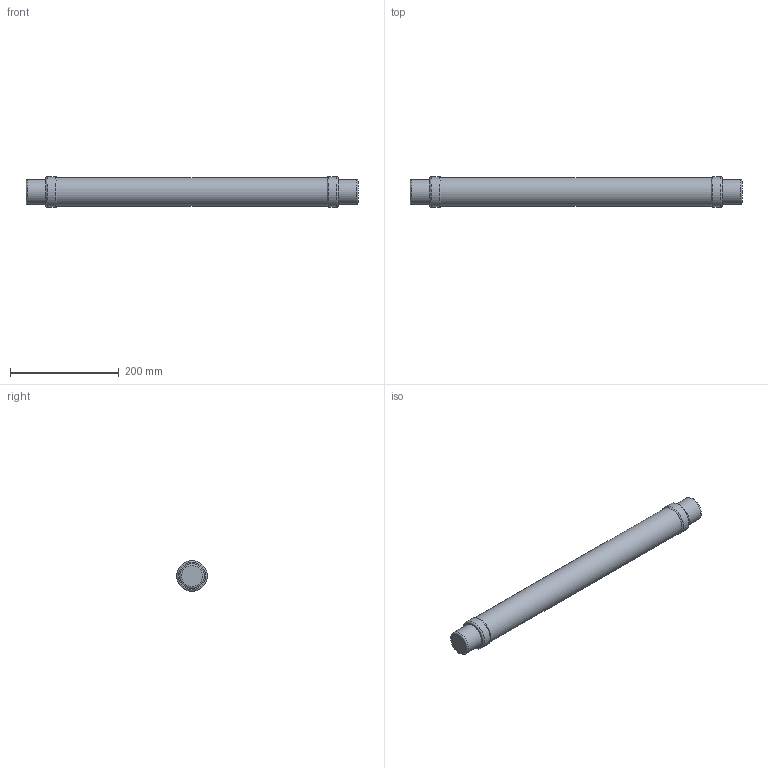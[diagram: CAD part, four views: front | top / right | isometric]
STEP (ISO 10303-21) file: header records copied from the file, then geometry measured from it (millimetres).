
FILE_DESCRIPTION (( 'STEP AP214' ), '1' );
FILE_NAME ('Ïàòðîí ÏÊÒ-VK-35 40,5-6-40.STEP', '2023-03-03T06:51:12', ( '' ), ( '' ), 'SwSTEP 2.0', 'SolidWorks 2018', '' );
FILE_SCHEMA (( 'AUTOMOTIVE_DESIGN' ));
Length unit declared in the file: millimetre
Products named in the file (1): Ïàòðîí ÏÊÒ-VK-35 40,5-6-40
Bounding box: 610 x 56 x 56 mm (x, y, z)
Volume: 734165.7 mm3; surface area: 172051.4 mm2
Topology: 1 solids, 2 shells, 18 faces, 30 edges, 18 vertices
Faces by surface type: plane 6, cylinder 6, torus 6
Full cylindrical faces by diameter (mm): 35 x1, 45 x2, 53 x1, 56 x2
Entity records: 376 total; most frequent: DIRECTION 70, CARTESIAN_POINT 51, AXIS2_PLACEMENT_3D 35, ORIENTED_EDGE 32, EDGE_LOOP 32, FACE_OUTER_BOUND 30, ADVANCED_FACE 18, VERTEX_POINT 16
